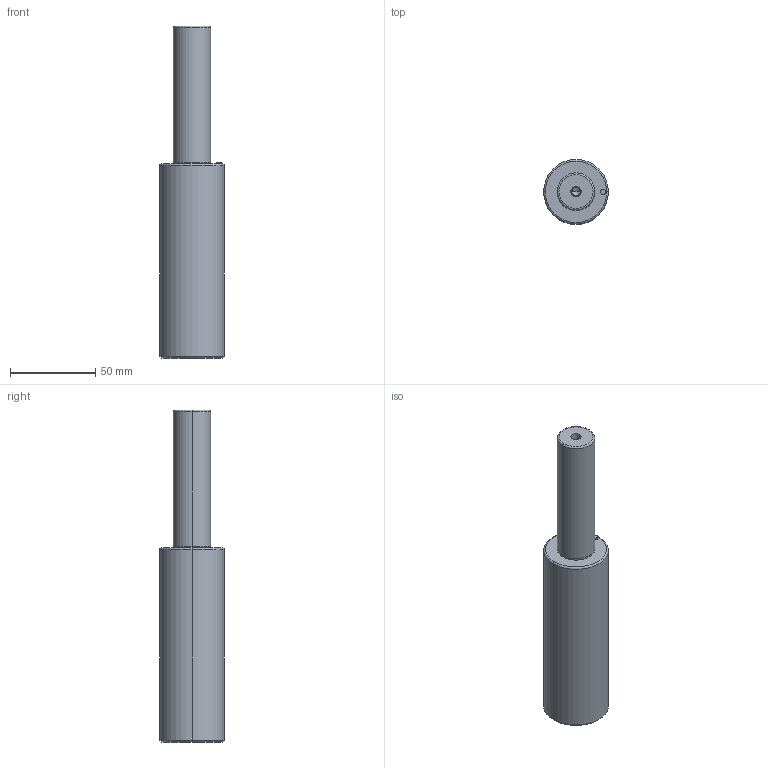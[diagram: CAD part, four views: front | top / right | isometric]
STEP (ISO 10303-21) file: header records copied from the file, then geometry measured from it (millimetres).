
FILE_DESCRIPTION(/* description */ (''),/* implementation_level */ '2;1');
FILE_NAME(/* name */ '3d_gsc38-80_03821_r00.stp',/* time_stamp */ '2011-01-10T14:15:21+09:00',/* author */ ('MISUMI'),/* organization */ (''),/* preprocessor_version */ 'ST-DEVELOPER v11',/* originating_system */ 'UGS - NX 5.0',/* authorisation */ '');
FILE_SCHEMA (('CONFIG_CONTROL_DESIGN'));
Length unit declared in the file: millimetre
Products named in the file (1): 3d_gsc38-80_03821_r00
Bounding box: 38 x 38 x 195 mm (x, y, z)
Volume: 158921.7 mm3; surface area: 21925.9 mm2
Topology: 1 solids, 1 shells, 32 faces, 66 edges, 38 vertices
Faces by surface type: cylinder 16, cone 6, plane 6, torus 4
Entity records: 912 total; most frequent: DIRECTION 168, CARTESIAN_POINT 133, ORIENTED_EDGE 124, AXIS2_PLACEMENT_3D 73, EDGE_CURVE 62, CIRCLE 40, EDGE_LOOP 38, VERTEX_POINT 38
